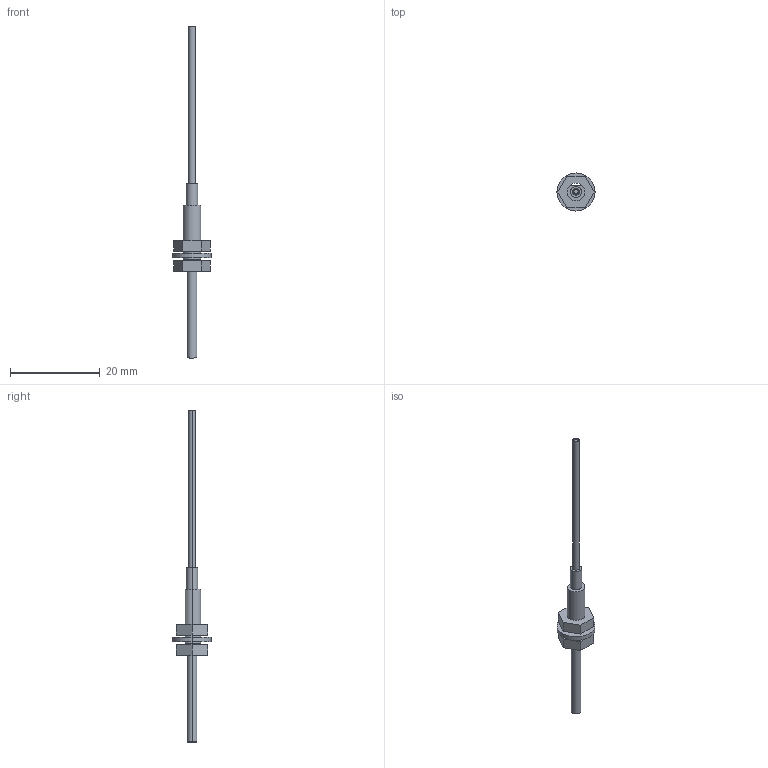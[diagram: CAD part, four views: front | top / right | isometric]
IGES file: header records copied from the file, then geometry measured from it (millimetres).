
Start section: SolidWorks IGES FILE using analytic representation for surfaces
Global section: file name: \\intra-srv04\開発データ\CAD_Data\CAD委員会\3D電子ｶﾀﾛｸﾞ\製品カタログ（新）\0_IGES\FT-FM2S4.IGS,41HSolidWorks 2004; native system: by SolidWorks Corporation; preprocessor: Version 5.3; author: mf1158; date: 050908.104550; units: millimetre
Bounding box: 8.5 x 8.5 x 74 mm (x, y, z)
Volume: 495.8 mm3; surface area: 949.4 mm2
Topology: 4 solids, 4 shells, 44 faces, 96 edges, 64 vertices
Faces by surface type: plane 25, revolution 19
